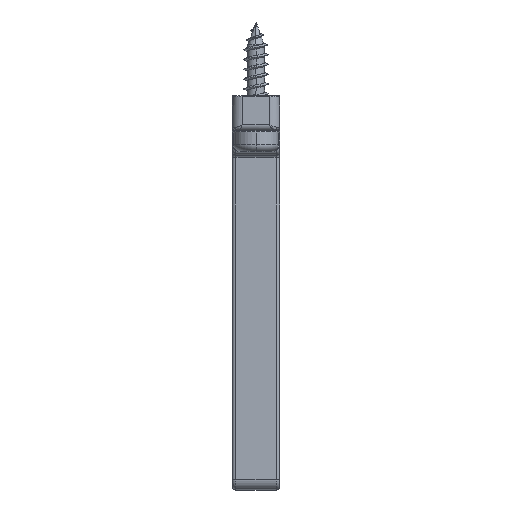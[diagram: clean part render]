
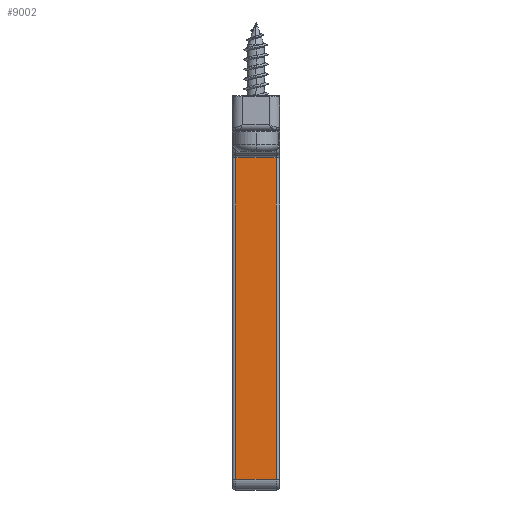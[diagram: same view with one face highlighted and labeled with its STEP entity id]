
A CAD part, front view. The second image highlights one B-rep face of the part: STEP entity #9002.
In plain terms, the highlighted planar face has unit normal (0, -1, 0).
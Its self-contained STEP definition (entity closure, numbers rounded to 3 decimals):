
#695 = CARTESIAN_POINT ( 'NONE',  ( -2.9, -106., -4.3 ) ) ;
#1235 = EDGE_CURVE ( 'NONE', #6077, #1647, #8624, .T. ) ;
#1647 = VERTEX_POINT ( 'NONE', #12255 ) ;
#1920 = EDGE_LOOP ( 'NONE', ( #6021, #10225, #3744, #10784, #5170, #12800, #15942, #15907 ) ) ;
#1929 = PLANE ( 'NONE',  #13803 ) ;
#1998 = DIRECTION ( 'NONE',  ( 0., -1., 0. ) ) ;
#2008 = CARTESIAN_POINT ( 'NONE',  ( 51.445, -106., 41.6 ) ) ;
#3229 = VECTOR ( 'NONE', #9540, 1000. ) ;
#3334 = VECTOR ( 'NONE', #13277, 1000. ) ;
#3484 = DIRECTION ( 'NONE',  ( -1., 0., 0. ) ) ;
#3625 = DIRECTION ( 'NONE',  ( -1., 0., 0. ) ) ;
#3633 = CARTESIAN_POINT ( 'NONE',  ( -2.05, -106., 41.6 ) ) ;
#3744 = ORIENTED_EDGE ( 'NONE', *, *, #14685, .T. ) ;
#4164 = EDGE_CURVE ( 'NONE', #9709, #6077, #17850, .T. ) ;
#4166 = FACE_OUTER_BOUND ( 'NONE', #1920, .T. ) ;
#4364 = CARTESIAN_POINT ( 'NONE',  ( 2.05, -106., 41.6 ) ) ;
#4477 = VECTOR ( 'NONE', #10474, 1000. ) ;
#4759 = EDGE_CURVE ( 'NONE', #17412, #9709, #8400, .T. ) ;
#5170 = ORIENTED_EDGE ( 'NONE', *, *, #15965, .T. ) ;
#5530 = VECTOR ( 'NONE', #9637, 1000. ) ;
#5940 = VERTEX_POINT ( 'NONE', #11860 ) ;
#6021 = ORIENTED_EDGE ( 'NONE', *, *, #1235, .T. ) ;
#6077 = VERTEX_POINT ( 'NONE', #15144 ) ;
#6229 = DIRECTION ( 'NONE',  ( 0., 1., 0. ) ) ;
#7060 = CARTESIAN_POINT ( 'NONE',  ( 2.05, -106., 42.5 ) ) ;
#7253 = LINE ( 'NONE', #11806, #3334 ) ;
#7603 = LINE ( 'NONE', #695, #3229 ) ;
#8109 = VERTEX_POINT ( 'NONE', #8287 ) ;
#8158 = CARTESIAN_POINT ( 'NONE',  ( 2.9, -106., 41.6 ) ) ;
#8210 = EDGE_CURVE ( 'NONE', #14822, #17412, #14085, .T. ) ;
#8287 = CARTESIAN_POINT ( 'NONE',  ( 2.9, -106., 41.6 ) ) ;
#8400 = LINE ( 'NONE', #13351, #4477 ) ;
#8546 = DIRECTION ( 'NONE',  ( 1., 0., 0. ) ) ;
#8624 = LINE ( 'NONE', #2008, #16465 ) ;
#9002 = ADVANCED_FACE ( 'NONE', ( #4166 ), #1929, .T. ) ;
#9037 = EDGE_CURVE ( 'NONE', #1647, #14731, #7603, .T. ) ;
#9540 = DIRECTION ( 'NONE',  ( 0., 0., -1. ) ) ;
#9610 = AXIS2_PLACEMENT_3D ( 'NONE', #7060, #17359, #8546 ) ;
#9637 = DIRECTION ( 'NONE',  ( 0., 0., 1. ) ) ;
#9709 = VERTEX_POINT ( 'NONE', #3633 ) ;
#9746 = EDGE_CURVE ( 'NONE', #5940, #8109, #9906, .T. ) ;
#9906 = LINE ( 'NONE', #8158, #5530 ) ;
#10225 = ORIENTED_EDGE ( 'NONE', *, *, #9037, .T. ) ;
#10461 = CARTESIAN_POINT ( 'NONE',  ( -2.9, -106., -4.3 ) ) ;
#10474 = DIRECTION ( 'NONE',  ( -1., 0., 0. ) ) ;
#10784 = ORIENTED_EDGE ( 'NONE', *, *, #9746, .T. ) ;
#11806 = CARTESIAN_POINT ( 'NONE',  ( 6.673, -106., -4.3 ) ) ;
#11860 = CARTESIAN_POINT ( 'NONE',  ( 2.9, -106., -4.3 ) ) ;
#12255 = CARTESIAN_POINT ( 'NONE',  ( -2.9, -106., 41.6 ) ) ;
#12310 = DIRECTION ( 'NONE',  ( 1., 0., 0. ) ) ;
#12800 = ORIENTED_EDGE ( 'NONE', *, *, #8210, .T. ) ;
#13277 = DIRECTION ( 'NONE',  ( 1., 0., 0. ) ) ;
#13351 = CARTESIAN_POINT ( 'NONE',  ( 6.673, -106., 41.6 ) ) ;
#13535 = CARTESIAN_POINT ( 'NONE',  ( 2.05, -106., 41.6 ) ) ;
#13803 = AXIS2_PLACEMENT_3D ( 'NONE', #18159, #1998, #12310 ) ;
#14085 = CIRCLE ( 'NONE', #9610, 0.9 ) ;
#14685 = EDGE_CURVE ( 'NONE', #14731, #5940, #7253, .T. ) ;
#14731 = VERTEX_POINT ( 'NONE', #10461 ) ;
#14822 = VERTEX_POINT ( 'NONE', #13535 ) ;
#15059 = CARTESIAN_POINT ( 'NONE',  ( -2.05, -106., 42.5 ) ) ;
#15144 = CARTESIAN_POINT ( 'NONE',  ( -2.05, -106., 41.6 ) ) ;
#15623 = AXIS2_PLACEMENT_3D ( 'NONE', #15059, #6229, #16555 ) ;
#15775 = VECTOR ( 'NONE', #3625, 1000. ) ;
#15907 = ORIENTED_EDGE ( 'NONE', *, *, #4164, .T. ) ;
#15942 = ORIENTED_EDGE ( 'NONE', *, *, #4759, .T. ) ;
#15965 = EDGE_CURVE ( 'NONE', #8109, #14822, #16231, .T. ) ;
#16231 = LINE ( 'NONE', #18318, #15775 ) ;
#16465 = VECTOR ( 'NONE', #3484, 1000. ) ;
#16555 = DIRECTION ( 'NONE',  ( 1., 0., 0. ) ) ;
#17359 = DIRECTION ( 'NONE',  ( 0., 1., 0. ) ) ;
#17412 = VERTEX_POINT ( 'NONE', #4364 ) ;
#17850 = CIRCLE ( 'NONE', #15623, 0.9 ) ;
#18159 = CARTESIAN_POINT ( 'NONE',  ( 6.673, -106., 39. ) ) ;
#18318 = CARTESIAN_POINT ( 'NONE',  ( 51.445, -106., 41.6 ) ) ;
